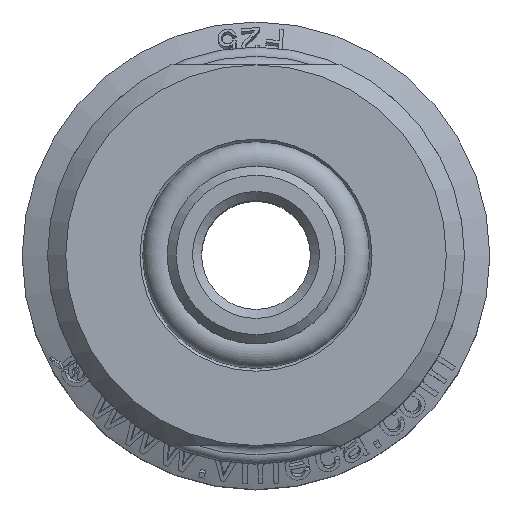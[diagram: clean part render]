
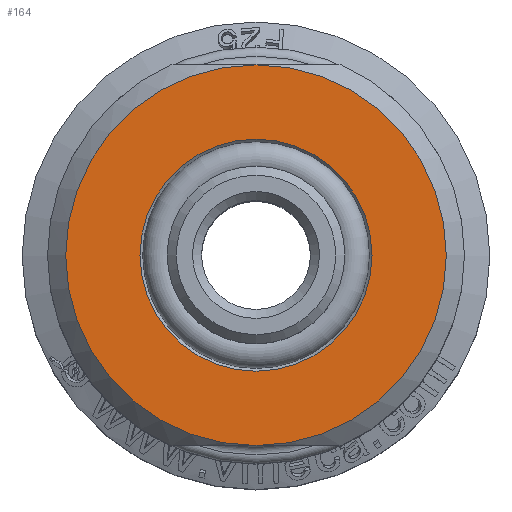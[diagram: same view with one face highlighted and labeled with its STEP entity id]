
A CAD part, top view. The second image highlights one B-rep face of the part: STEP entity #164.
In plain terms, the highlighted planar face has unit normal (0, 0, 1).
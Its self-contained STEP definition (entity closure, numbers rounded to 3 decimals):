
#164 = ADVANCED_FACE( '', ( #316, #317 ), #318, .F. );
#316 = FACE_OUTER_BOUND( '', #497, .T. );
#317 = FACE_BOUND( '', #498, .T. );
#318 = PLANE( '', #499 );
#497 = EDGE_LOOP( '', ( #1200, #1201 ) );
#498 = EDGE_LOOP( '', ( #1202 ) );
#499 = AXIS2_PLACEMENT_3D( '', #1203, #1204, #1205 );
#1200 = ORIENTED_EDGE( '', *, *, #2402, .F. );
#1201 = ORIENTED_EDGE( '', *, *, #2452, .F. );
#1202 = ORIENTED_EDGE( '', *, *, #2453, .T. );
#1203 = CARTESIAN_POINT( '', ( -6.4, 0., 3.683 ) );
#1204 = DIRECTION( '', ( 0., 0., -1. ) );
#1205 = DIRECTION( '', ( -1., 0., 0. ) );
#2402 = EDGE_CURVE( '', #6351, #6352, #6353, .T. );
#2452 = EDGE_CURVE( '', #6352, #6351, #6429, .T. );
#2453 = EDGE_CURVE( '', #6430, #6430, #6431, .T. );
#6351 = VERTEX_POINT( '', #9662 );
#6352 = VERTEX_POINT( '', #9663 );
#6353 = CIRCLE( '', #9664, 10.5 );
#6429 = CIRCLE( '', #9776, 10.5 );
#6430 = VERTEX_POINT( '', #9777 );
#6431 = CIRCLE( '', #9778, 6.4 );
#9662 = CARTESIAN_POINT( '', ( 0., 10.5, 3.683 ) );
#9663 = CARTESIAN_POINT( '', ( 0., -10.5, 3.683 ) );
#9664 = AXIS2_PLACEMENT_3D( '', #10957, #10958, #10959 );
#9776 = AXIS2_PLACEMENT_3D( '', #11018, #11019, #11020 );
#9777 = CARTESIAN_POINT( '', ( -6.4, 0., 3.683 ) );
#9778 = AXIS2_PLACEMENT_3D( '', #11021, #11022, #11023 );
#10957 = CARTESIAN_POINT( '', ( 0., 0., 3.683 ) );
#10958 = DIRECTION( '', ( 0., 0., -1. ) );
#10959 = DIRECTION( '', ( -1., 0., 0. ) );
#11018 = CARTESIAN_POINT( '', ( 0., 0., 3.683 ) );
#11019 = DIRECTION( '', ( 0., 0., -1. ) );
#11020 = DIRECTION( '', ( -1., 0., 0. ) );
#11021 = CARTESIAN_POINT( '', ( 0., 0., 3.683 ) );
#11022 = DIRECTION( '', ( 0., 0., -1. ) );
#11023 = DIRECTION( '', ( -1., 0., 0. ) );
